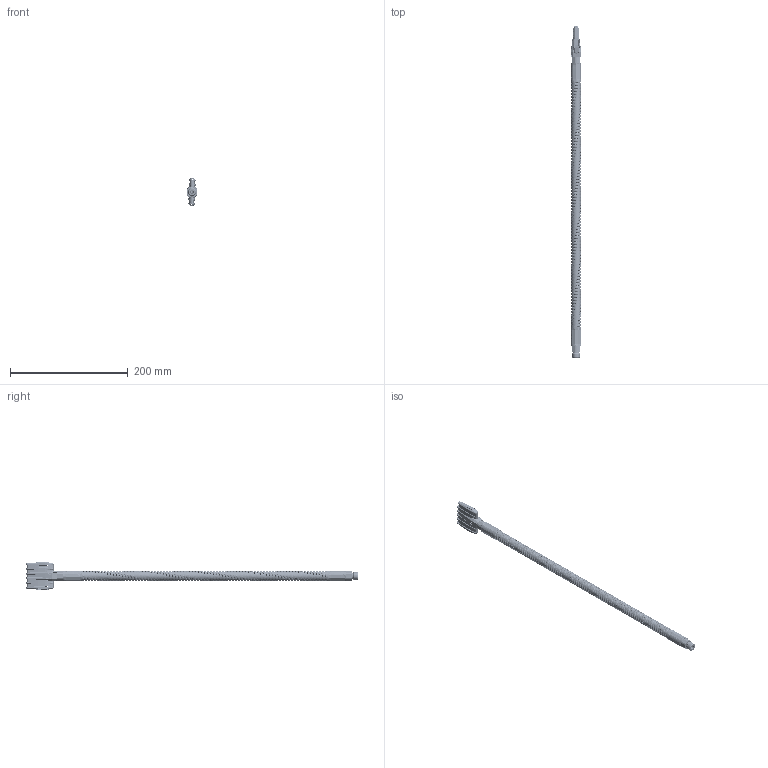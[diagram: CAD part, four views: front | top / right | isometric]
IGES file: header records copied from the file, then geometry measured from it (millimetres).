
Start section: SolidWorks IGES file using analytic representation for surfaces
Global section: file name: \\silv-file01\public$\SILVENT AB\ENGINEERING\Drawings\ÖVRIGT\IGES\9002W-S-500.IGS; native system: SolidWorks 2016; preprocessor: SolidWorks 2016; author: a.olander; date: 190910.080752; units: millimetre
Bounding box: 18.5 x 564.15 x 47.39 mm (x, y, z)
Surface area: 53954.7 mm2 (no closed solid volume)
Topology: 0 solids, 0 shells, 598 faces, 9277 edges, 9277 vertices
Faces by surface type: bspline 303, revolution 295
